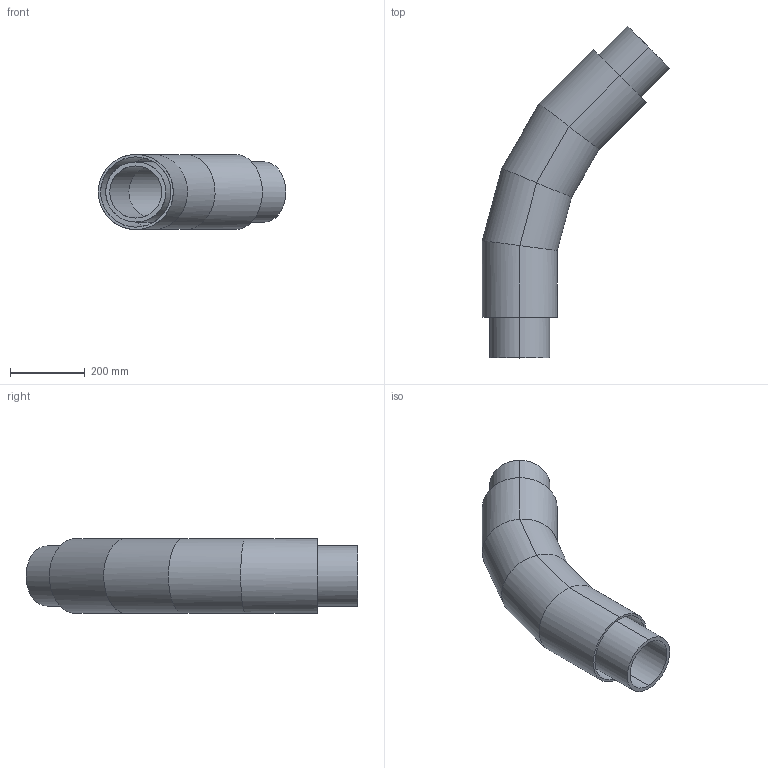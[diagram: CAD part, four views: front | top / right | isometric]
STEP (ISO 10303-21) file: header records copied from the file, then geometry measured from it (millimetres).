
FILE_DESCRIPTION (( 'STEP AP214' ), '1' );
FILE_NAME ('KP_4-200-160SCEC.STEP', '2025-01-09T10:26:57', ( '' ), ( '' ), 'SwSTEP 2.0', 'SolidWorks 2023', '' );
FILE_SCHEMA (( 'AUTOMOTIVE_DESIGN' ));
Length unit declared in the file: millimetre
Products named in the file (1): KP_4-200-160SCEC
Bounding box: 500.87 x 887.06 x 200.4 mm (x, y, z)
Volume: 7532946.7 mm3; surface area: 1800551 mm2
Topology: 2 solids, 2 shells, 36 faces, 72 edges, 40 vertices
Faces by surface type: cylinder 32, plane 4
Entity records: 940 total; most frequent: CARTESIAN_POINT 221, ORIENTED_EDGE 144, DIRECTION 138, EDGE_CURVE 72, AXIS2_PLACEMENT_3D 53, VERTEX_POINT 40, EDGE_LOOP 40, ADVANCED_FACE 36
